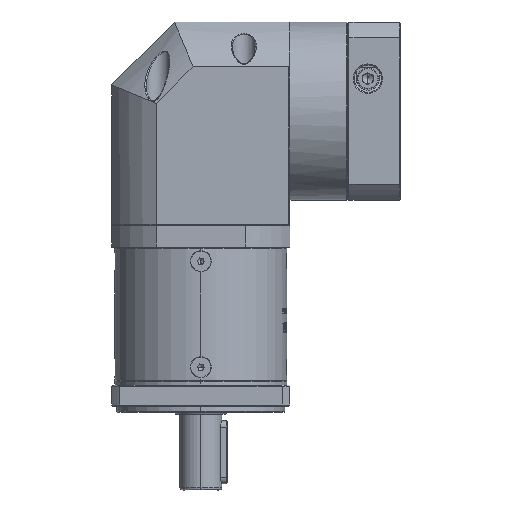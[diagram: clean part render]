
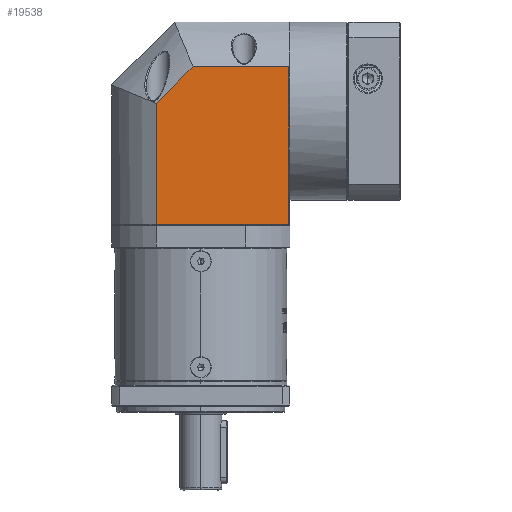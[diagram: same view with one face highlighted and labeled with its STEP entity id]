
A CAD part, front view. The second image highlights one B-rep face of the part: STEP entity #19538.
In plain terms, the highlighted planar face has unit normal (0, -1, 0).
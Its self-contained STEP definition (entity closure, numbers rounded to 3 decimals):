
#6640 = DIRECTION ( 'NONE',  ( 0., 1., 0. ) ) ;
#7675 = VECTOR ( 'NONE', #158218, 1000. ) ;
#8151 = LINE ( 'NONE', #108333, #149486 ) ;
#19538 = ADVANCED_FACE ( 'NONE', ( #78609 ), #101899, .F. ) ;
#21494 = DIRECTION ( 'NONE',  ( 1., 0., 0. ) ) ;
#27860 = CARTESIAN_POINT ( 'NONE',  ( -17.104, 108.276, -0.656 ) ) ;
#32703 = EDGE_CURVE ( 'NONE', #118124, #117274, #8151, .T. ) ;
#40698 = DIRECTION ( 'NONE',  ( 0., 0., 1. ) ) ;
#47501 = VERTEX_POINT ( 'NONE', #123252 ) ;
#50137 = CARTESIAN_POINT ( 'NONE',  ( 46.609, 108.276, 16.875 ) ) ;
#53042 = DIRECTION ( 'NONE',  ( 0., 0., -1. ) ) ;
#57181 = EDGE_CURVE ( 'NONE', #118124, #128902, #117081, .T. ) ;
#71333 = EDGE_LOOP ( 'NONE', ( #113803, #87032, #103610, #118991, #86584 ) ) ;
#77452 = CARTESIAN_POINT ( 'NONE',  ( -17.104, 108.276, -0.656 ) ) ;
#78609 = FACE_OUTER_BOUND ( 'NONE', #71333, .T. ) ;
#82797 = CARTESIAN_POINT ( 'NONE',  ( 46.109, 108.276, -58.338 ) ) ;
#84860 = LINE ( 'NONE', #77452, #7675 ) ;
#85045 = VECTOR ( 'NONE', #21494, 1000. ) ;
#86584 = ORIENTED_EDGE ( 'NONE', *, *, #32703, .F. ) ;
#87032 = ORIENTED_EDGE ( 'NONE', *, *, #102862, .F. ) ;
#88734 = CARTESIAN_POINT ( 'NONE',  ( 46.609, 108.276, 38.162 ) ) ;
#97032 = EDGE_CURVE ( 'NONE', #117274, #47501, #84860, .T. ) ;
#101899 = PLANE ( 'NONE',  #130811 ) ;
#102465 = DIRECTION ( 'NONE',  ( -1., 0., 0. ) ) ;
#102862 = EDGE_CURVE ( 'NONE', #126068, #128902, #121999, .T. ) ;
#103610 = ORIENTED_EDGE ( 'NONE', *, *, #117068, .F. ) ;
#108333 = CARTESIAN_POINT ( 'NONE',  ( -17.104, 108.276, 38.162 ) ) ;
#112422 = CARTESIAN_POINT ( 'NONE',  ( 46.109, 108.276, 16.875 ) ) ;
#113803 = ORIENTED_EDGE ( 'NONE', *, *, #57181, .T. ) ;
#117068 = EDGE_CURVE ( 'NONE', #47501, #126068, #166354, .T. ) ;
#117081 = LINE ( 'NONE', #117275, #85045 ) ;
#117274 = VERTEX_POINT ( 'NONE', #27860 ) ;
#117275 = CARTESIAN_POINT ( 'NONE',  ( 46.609, 108.276, -58.338 ) ) ;
#118124 = VERTEX_POINT ( 'NONE', #119501 ) ;
#118991 = ORIENTED_EDGE ( 'NONE', *, *, #97032, .F. ) ;
#119501 = CARTESIAN_POINT ( 'NONE',  ( -17.104, 108.276, -58.338 ) ) ;
#121999 = LINE ( 'NONE', #148686, #158410 ) ;
#123252 = CARTESIAN_POINT ( 'NONE',  ( 0.426, 108.276, 16.875 ) ) ;
#125673 = VECTOR ( 'NONE', #159632, 1000. ) ;
#126068 = VERTEX_POINT ( 'NONE', #112422 ) ;
#128902 = VERTEX_POINT ( 'NONE', #82797 ) ;
#130811 = AXIS2_PLACEMENT_3D ( 'NONE', #88734, #6640, #102465 ) ;
#148686 = CARTESIAN_POINT ( 'NONE',  ( 46.109, 108.276, 38.162 ) ) ;
#149486 = VECTOR ( 'NONE', #40698, 1000. ) ;
#158218 = DIRECTION ( 'NONE',  ( 0.707, 0., 0.707 ) ) ;
#158410 = VECTOR ( 'NONE', #53042, 1000. ) ;
#159632 = DIRECTION ( 'NONE',  ( 1., 0., 0. ) ) ;
#166354 = LINE ( 'NONE', #50137, #125673 ) ;
